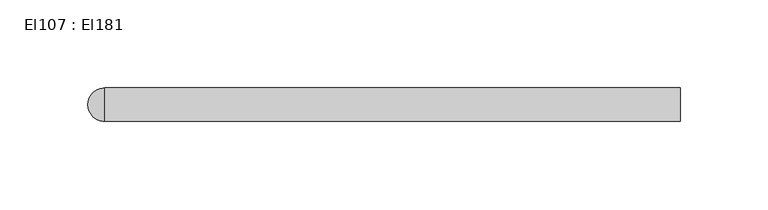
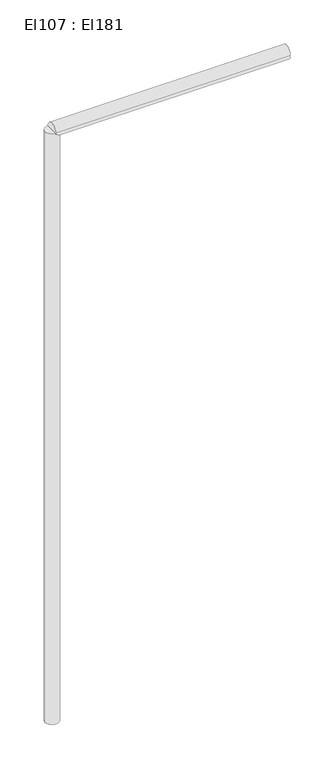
"""IFC4 building model written with IfcOpenShell, lengths in millimetres: cable carrier segment geometry, El107 : El181."""

from ifc_helpers import new_model, si_unit, point, frame, frame_2d, origin, place, context, project, spatial, circle_curve, trimmed, segment, composite_curve, outline, extrude, source, transform, mapped, element, save


def el107_el181_2fc4830e(model_context):
    return source(origin(), model_context, "Body", "SweptSolid", [
        extrude(outline(composite_curve([segment(trimmed(circle_curve(frame_2d((21166.0121745, 2700.0)), 9.5), [point((21156.5121745, 2700.0))], [point((21175.5121745, 2700.0))], False, "CARTESIAN"), True, "CONTINUOUS"), segment(trimmed(circle_curve(frame_2d((21166.0121745, 2700.0)), 9.5), [point((21175.5121745, 2700.0))], [point((21156.5121745, 2700.0))], False, "CARTESIAN"), True, "CONTINUOUS")], self_intersect=False)), frame((3889.7986511, 0.0, 0.0), z_axis=(1.0, 0.0, 0.0), x_axis=(0.0, 1.0, 0.0)), (0.0, 0.0, 1.0), 327.073),
        extrude(outline(composite_curve([segment(trimmed(circle_curve(frame_2d((3889.7986511, 21166.0121745)), 9.5), [point((3880.2986511, 21166.0121745))], [point((3899.2986511, 21166.0121745))], False, "CARTESIAN"), True, "CONTINUOUS"), segment(trimmed(circle_curve(frame_2d((3889.7986511, 21166.0121745)), 9.5), [point((3899.2986511, 21166.0121745))], [point((3880.2986511, 21166.0121745))], False, "CARTESIAN"), True, "CONTINUOUS")], self_intersect=False)), frame((0.0, 0.0, 1830.0), z_axis=(0.0, 0.0, 1.0), x_axis=(1.0, 0.0, 0.0)), (0.0, 0.0, 1.0), 870.0),
    ])


if __name__ == "__main__":
    model = new_model("IFC4")
    model_context = context("Model", 3, world=origin())
    ifc_project = project(units=[si_unit("LENGTHUNIT", "METRE", prefix="MILLI")], contexts=[model_context])
    site = spatial("IfcSite", under=ifc_project)
    building = spatial("IfcBuilding", under=site)
    placement = place(None, origin())
    el107_el181_shape = el107_el181_2fc4830e(model_context)
    element("IfcCableCarrierSegment", 1, ObjectType="El107 : El181", at=placement, inside=building, context=model_context, shape_type="MappedRepresentation", body=[
        mapped(el107_el181_shape, transform((0.0, 0.0, 0.0), x_axis=(1.0, 0.0, 0.0), y_axis=(0.0, 1.0, 0.0), z_axis=(0.0, 0.0, 1.0))),
    ])
    save(model, "model.ifc")
